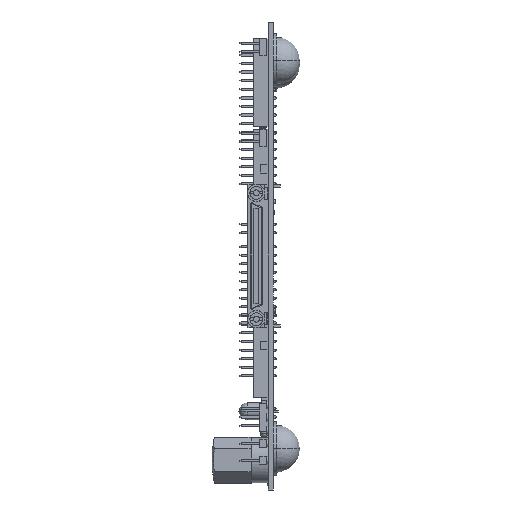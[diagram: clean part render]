
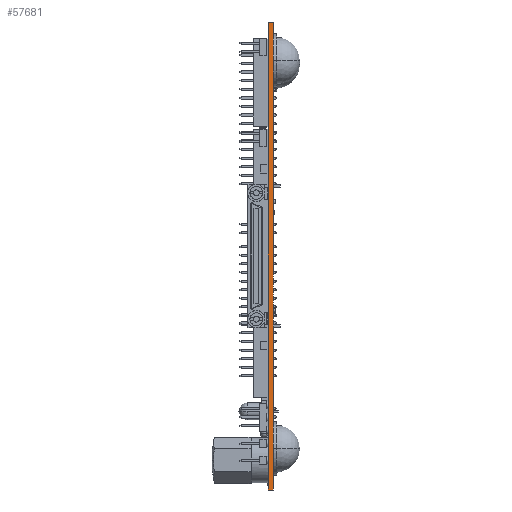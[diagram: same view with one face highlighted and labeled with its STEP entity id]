
A CAD part, left-side view. The second image highlights one B-rep face of the part: STEP entity #57681.
In plain terms, the highlighted planar face has unit normal (-1, 0, 0).
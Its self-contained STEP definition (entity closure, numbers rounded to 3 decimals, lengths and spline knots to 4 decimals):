
#93=DIRECTION('',(0.,0.,1.));
#94=VECTOR('',#93,2.0865);
#95=CARTESIAN_POINT('',(-0.25,0.062,-5.25));
#96=LINE('',#95,#94);
#161=DIRECTION('',(0.,0.,1.));
#162=VECTOR('',#161,2.0867);
#163=CARTESIAN_POINT('',(-0.25,0.062,-1.8367));
#164=LINE('',#163,#162);
#4355=DIRECTION('',(0.,0.,1.));
#4356=VECTOR('',#4355,1.3268);
#4357=CARTESIAN_POINT('',(-0.25,0.062,-3.1635));
#4358=LINE('',#4357,#4356);
#4359=DIRECTION('',(0.,1.,0.));
#4360=VECTOR('',#4359,0.062);
#4361=CARTESIAN_POINT('',(-0.25,0.,-5.25));
#4362=LINE('',#4361,#4360);
#4363=DIRECTION('',(0.,1.,0.));
#4364=VECTOR('',#4363,0.062);
#4365=CARTESIAN_POINT('',(-0.25,0.,0.25));
#4366=LINE('',#4365,#4364);
#4367=DIRECTION('',(0.,0.,1.));
#4368=VECTOR('',#4367,5.5);
#4369=CARTESIAN_POINT('',(-0.25,0.,-5.25));
#4370=LINE('',#4369,#4368);
#42079=CARTESIAN_POINT('',(-0.25,0.,-5.25));
#42080=CARTESIAN_POINT('',(-0.25,0.,0.25));
#42081=VERTEX_POINT('',#42079);
#42082=VERTEX_POINT('',#42080);
#42098=CARTESIAN_POINT('',(-0.25,0.062,-5.25));
#42100=VERTEX_POINT('',#42098);
#42121=CARTESIAN_POINT('',(-0.25,0.062,0.25));
#42123=VERTEX_POINT('',#42121);
#42899=CARTESIAN_POINT('',(-0.25,0.062,-1.8367));
#42901=VERTEX_POINT('',#42899);
#42913=CARTESIAN_POINT('',(-0.25,0.062,-3.1635));
#42915=VERTEX_POINT('',#42913);
#57665=CARTESIAN_POINT('',(-0.25,0.,-5.25));
#57666=DIRECTION('',(-1.,0.,0.));
#57667=DIRECTION('',(0.,0.,1.));
#57668=AXIS2_PLACEMENT_3D('',#57665,#57666,#57667);
#57669=PLANE('',#57668);
#57670=ORIENTED_EDGE('',*,*,#57655,.T.);
#57671=ORIENTED_EDGE('',*,*,#54917,.T.);
#57673=ORIENTED_EDGE('',*,*,#57672,.F.);
#57675=ORIENTED_EDGE('',*,*,#57674,.F.);
#57677=ORIENTED_EDGE('',*,*,#57676,.T.);
#57678=ORIENTED_EDGE('',*,*,#54885,.T.);
#57679=EDGE_LOOP('',(#57670,#57671,#57673,#57675,#57677,#57678));
#57680=FACE_OUTER_BOUND('',#57679,.F.);
#57681=ADVANCED_FACE('',(#57680),#57669,.T.);
#54885=EDGE_CURVE('',#42100,#42915,#96,.T.);
#54917=EDGE_CURVE('',#42901,#42123,#164,.T.);
#57655=EDGE_CURVE('',#42915,#42901,#4358,.T.);
#57672=EDGE_CURVE('',#42082,#42123,#4366,.T.);
#57674=EDGE_CURVE('',#42081,#42082,#4370,.T.);
#57676=EDGE_CURVE('',#42081,#42100,#4362,.T.);
